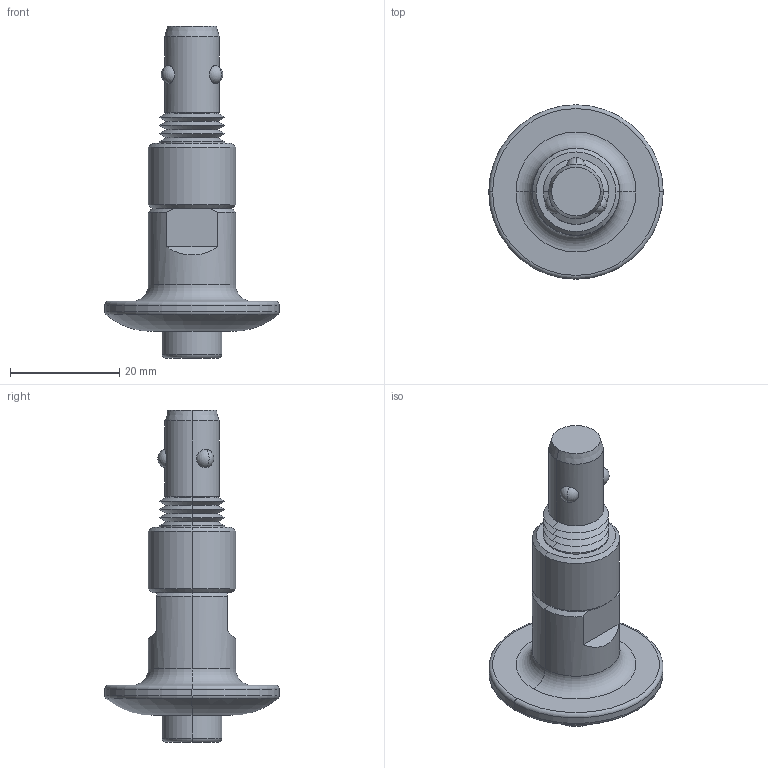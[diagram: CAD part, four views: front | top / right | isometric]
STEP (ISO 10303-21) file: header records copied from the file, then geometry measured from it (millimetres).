
FILE_DESCRIPTION (( 'STEP AP203' ), '1' );
FILE_NAME ('33912.W1610.step', '2019-10-28T11:23:04', ( '' ), ( '' ), 'SwSTEP 2.0', 'SolidWorks 2017', '' );
FILE_SCHEMA (( 'CONFIG_CONTROL_DESIGN' ));
Length unit declared in the file: millimetre
Products named in the file (1): 33912.W1610
Bounding box: 32 x 32 x 60.9 mm (x, y, z)
Volume: 11637.5 mm3; surface area: 4268.1 mm2
Topology: 1 solids, 1 shells, 64 faces, 128 edges, 72 vertices
Faces by surface type: cone 25, cylinder 12, plane 11, torus 10, sphere 6
Entity records: 1888 total; most frequent: CARTESIAN_POINT 457, DIRECTION 319, ORIENTED_EDGE 256, AXIS2_PLACEMENT_3D 138, EDGE_CURVE 128, CIRCLE 73, VERTEX_POINT 72, EDGE_LOOP 70
